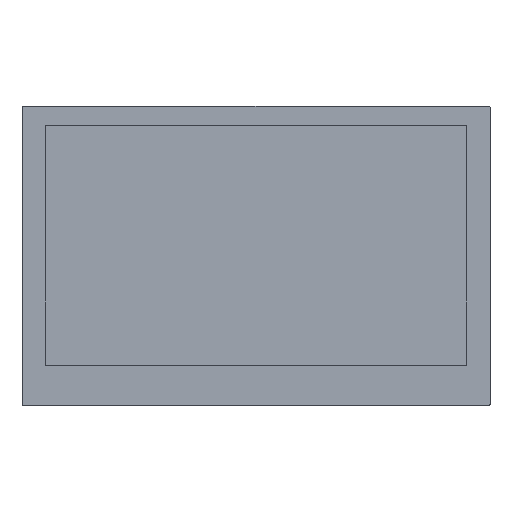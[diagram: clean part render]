
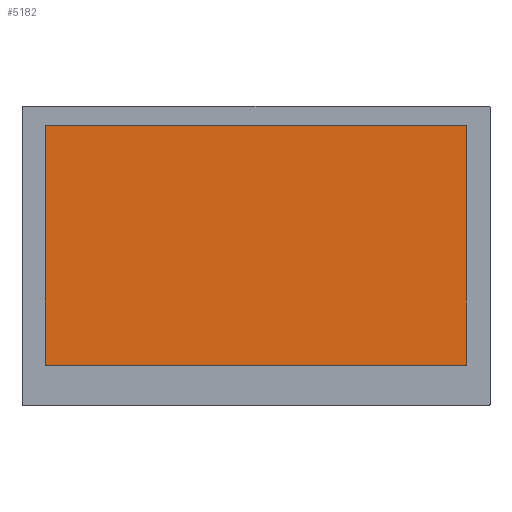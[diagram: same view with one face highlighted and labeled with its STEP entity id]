
A CAD part, top view. The second image highlights one B-rep face of the part: STEP entity #5182.
In plain terms, the highlighted planar face has unit normal (0, 0, 1).
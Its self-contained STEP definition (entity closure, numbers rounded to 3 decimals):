
#3675=DIRECTION('',(1.,0.,0.));
#3676=VECTOR('',#3675,95.54);
#3677=CARTESIAN_POINT('',(-47.77,27.18,4.775));
#3678=LINE('',#3677,#3676);
#3689=DIRECTION('',(0.,-1.,0.));
#3690=VECTOR('',#3689,54.36);
#3691=CARTESIAN_POINT('',(47.77,27.18,4.775));
#3692=LINE('',#3691,#3690);
#3703=DIRECTION('',(-1.,0.,0.));
#3704=VECTOR('',#3703,95.54);
#3705=CARTESIAN_POINT('',(47.77,-27.18,4.775));
#3706=LINE('',#3705,#3704);
#3717=DIRECTION('',(0.,1.,0.));
#3718=VECTOR('',#3717,54.36);
#3719=CARTESIAN_POINT('',(-47.77,-27.18,4.775));
#3720=LINE('',#3719,#3718);
#4034=CARTESIAN_POINT('',(-47.77,27.18,4.775));
#4035=CARTESIAN_POINT('',(47.77,27.18,4.775));
#4036=VERTEX_POINT('',#4034);
#4037=VERTEX_POINT('',#4035);
#4038=CARTESIAN_POINT('',(47.77,-27.18,4.775));
#4039=VERTEX_POINT('',#4038);
#4040=CARTESIAN_POINT('',(-47.77,-27.18,4.775));
#4041=VERTEX_POINT('',#4040);
#5168=CARTESIAN_POINT('',(0.,0.,4.775));
#5169=DIRECTION('',(0.,0.,-1.));
#5170=DIRECTION('',(-1.,0.,0.));
#5171=AXIS2_PLACEMENT_3D('',#5168,#5169,#5170);
#5172=PLANE('',#5171);
#5173=ORIENTED_EDGE('',*,*,#5158,.T.);
#5175=ORIENTED_EDGE('',*,*,#5174,.T.);
#5177=ORIENTED_EDGE('',*,*,#5176,.T.);
#5179=ORIENTED_EDGE('',*,*,#5178,.T.);
#5180=EDGE_LOOP('',(#5173,#5175,#5177,#5179));
#5181=FACE_OUTER_BOUND('',#5180,.F.);
#5158=EDGE_CURVE('',#4036,#4037,#3678,.T.);
#5174=EDGE_CURVE('',#4037,#4039,#3692,.T.);
#5176=EDGE_CURVE('',#4039,#4041,#3706,.T.);
#5178=EDGE_CURVE('',#4041,#4036,#3720,.T.);
#5182=ADVANCED_FACE('',(#5181),#5172,.F.);
